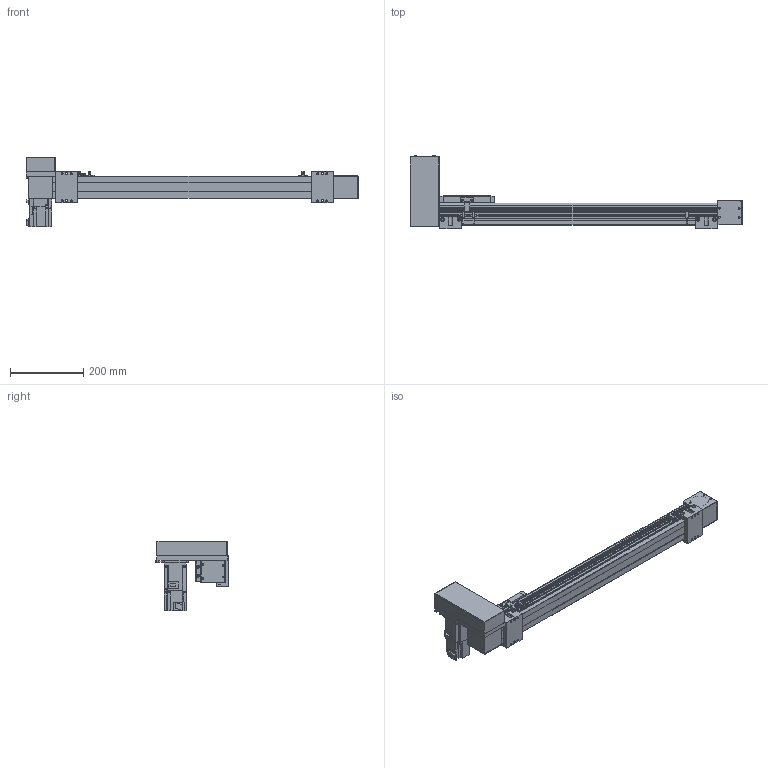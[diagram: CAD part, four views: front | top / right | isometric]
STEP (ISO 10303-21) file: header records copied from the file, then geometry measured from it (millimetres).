
FILE_DESCRIPTION(/* description */ ('STEP AP214'),/* implementation_level */ '2;1');
FILE_NAME(/* name */ 'SK60-P13-S600-RU-T40-C1-N(0)',/* time_stamp */ '2023-04-06T05:02:19+02:00',/* author */ ('License CC BY-ND 4.0'),/* organization */ ('CADENAS'),/* preprocessor_version */ 'ST-DEVELOPER v19.3',/* originating_system */ 'PARTsolutions',/* authorisation */ ' ');
FILE_SCHEMA (('AUTOMOTIVE_DESIGN {1 0 10303 214 3 1 1}'));
Length unit declared in the file: millimetre
Products named in the file (10): SK60-P13-S600-RU-T40-C1-N(0); PSC140-sensor; SK60-S450_seat; SK60-S450-BL-C1_slider; SK60_body3; SK60_body6; SK60-BL_body2; T40-p1; SK60-RU_fb; SK60-S600-RU-C1_body
Assembly tree (16 placements, depth 2):
  SK60-P13-S600-RU-T40-C1-N(0)
    PSC140-sensor  x3
    SK60-S450_seat  x2
    SK60-S450-BL-C1_slider
    SK60_body3  x3
    SK60_body6  x2
    SK60-BL_body2  x2
    T40-p1
    SK60-RU_fb
    SK60-S600-RU-C1_body
Bounding box: 905.5 x 201 x 189.7 mm (x, y, z)
Volume: 4293420.3 mm3; surface area: 564367.3 mm2
Topology: 16 solids, 16 shells, 810 faces, 2048 edges, 1349 vertices
Faces by surface type: plane 524, cylinder 262, cone 22, torus 2
Full cylindrical faces by diameter (mm): 2.8 x3, 3.3 x4, 4 x2, 4.5 x30, 4.6 x3, 4.917 x16, 5 x6, 5.478 x4, 5.5 x19, 6.5 x4, 7 x2, 8 x4, 8.5 x4, 9.988 x4, 10 x8, 14 x1, 47 x3, 50 x2
Entity records: 18655 total; most frequent: DIRECTION 3184, CARTESIAN_POINT 3150, ORIENTED_EDGE 2940, EDGE_CURVE 1470, AXIS2_PLACEMENT_3D 1068, LINE 1048, VECTOR 1048, VERTEX_POINT 1034
